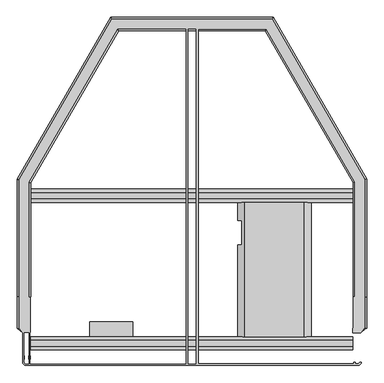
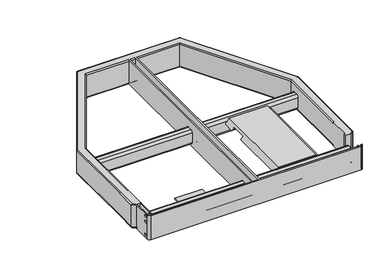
"""IFC4 building model written with IfcOpenShell, lengths in millimetres: proxy geometry, d&b J-Series Flying Frame : J Flying Frame."""

from ifc_helpers import new_model, si_unit, point, frame, origin, place, context, project, spatial, polyline, circle_curve, ellipse_curve, trimmed, outline, extrude, faceted_brep, source, transform, mapped, element, save
from ifc_brep_helpers import plane_surface, cylinder_surface, revolved_surface, extruded_surface, spline_surface, advanced_brep


def communication_devices_da0df73a(model_context):
    return source(origin(), model_context, "Body", "SolidModel", [
        advanced_brep(
        [(529.8213474, 112.6590104, 5.0), (529.8213474, 112.6590104, 115.0), (524.8213474, 112.6590104, 120.0), (523.1214393, 112.6590104, 120.0), (528.1214393, 112.6590104, 115.0), (528.1214393, 112.6590104, 5.0), (523.1214393, 112.6590104, 0.0), (524.8213474, 112.6590104, 0.0), (-493.1205849, 207.3217101, 120.0), (-488.1205849, 207.3217101, 120.0), (-488.1205849, 207.3217101, 115.0), (-488.1205849, 207.3217101, 5.0), (-488.1205849, 207.3217101, 0.0), (-493.1205849, 207.3217101, 0.0), (494.820493, 207.3217101, 0.0), (489.820493, 207.3217101, 0.0), (489.820493, 207.3217101, 5.0), (489.820493, 207.3217101, 115.0), (489.820493, 207.3217101, 120.0), (494.820493, 207.3217101, 120.0), (-528.1214393, 112.6590104, 5.0), (-528.1214393, 207.3217101, 5.0), (-523.1214393, 207.3217101, 0.0), (-523.1214393, 112.6590104, 0.0), (-523.1214393, 563.9047494, 0.0), (-241.8968652, 1051.0, 0.0), (243.5967733, 1051.0, 0.0), (524.8213474, 563.9047494, 0.0), (524.8213474, 207.3217101, 0.0), (507.150046, 99.7101996, 0.0), (488.1205849, 99.7101996, 0.0), (488.1205849, 112.6590104, 0.0), (489.820493, 112.6590104, 0.0), (494.820493, 555.8660447, 0.0), (226.275772, 1020.9991456, 0.0), (19.849954, 1020.9991456, 0.0), (19.849954, 5.0, 0.0), (490.8213474, 5.0, 0.0), (490.8213474, 10.0, 0.0), (495.8213474, 10.0, 0.0), (495.8213474, 5.0, 0.0), (503.849954, 5.0, 0.0), (508.849954, 10.0, 0.0), (513.849954, 10.0, 0.0), (503.849954, 0.0, 0.0), (-502.150046, 0.0, 0.0), (-512.150046, 10.0, 0.0), (-512.150046, 99.7101996, 0.0), (-507.150046, 99.7101996, 0.0), (-507.150046, 10.0, 0.0), (-502.150046, 5.0, 0.0), (-494.1214393, 5.0, 0.0), (-494.1214393, 99.7101996, 0.0), (-224.5758639, 1020.9991456, 0.0), (-493.1205849, 555.8660447, 0.0), (-488.1205849, 99.7101996, 0.0), (-489.1214393, 99.7101996, 0.0), (-489.1214393, 5.0, 0.0), (-18.150046, 5.0, 0.0), (-18.150046, 1021.0, 0.0), (-10.150046, 1021.0, 0.0), (-10.150046, 5.0, 0.0), (11.849954, 5.0, 0.0), (11.849954, 1021.0, 0.0), (-488.1205849, 554.5262988, 5.0), (-488.1205849, 554.5262988, 115.0), (-488.1205849, 99.7101996, 120.0), (-488.1205849, 494.9999998, 70.0), (-488.1205849, 504.9999998, 80.0), (-488.1205849, 524.9974162, 80.0), (-488.1205849, 534.9999998, 69.9974165), (-488.1205849, 534.9999998, 20.0), (-488.1205849, 524.9999998, 10.0), (-488.1205849, 504.9999998, 10.0), (-488.1205849, 494.9999998, 20.0), (-523.1214393, 207.3217101, 120.0), (-523.1214393, 112.6590104, 120.0), (-512.150046, 99.7101996, 120.0), (-512.150046, 10.0, 120.0), (-502.150046, 0.0, 120.0), (503.849954, 0.0, 120.0), (513.849954, 10.0, 120.0), (508.849954, 10.0, 120.0), (503.849954, 5.0, 120.0), (495.8213474, 5.0, 120.0), (495.8213474, 10.0, 120.0), (490.8213474, 10.0, 120.0), (490.8213474, 5.0, 120.0), (19.849954, 5.0, 120.0), (19.849954, 1021.0, 120.0), (226.275772, 1020.9991456, 120.0), (494.820493, 555.8660447, 120.0), (489.820493, 112.6590104, 120.0), (488.1205849, 112.6590104, 120.0), (488.1205849, 99.7101996, 120.0), (512.150046, 99.7101996, 120.0), (524.8213474, 207.3217101, 120.0), (524.8213474, 563.9047494, 120.0), (243.5967733, 1051.0, 120.0), (-241.8968652, 1051.0, 120.0), (-523.1214393, 563.9047494, 120.0), (-493.1205849, 555.8660447, 120.0), (-224.5758639, 1020.9991456, 120.0), (-18.150046, 1020.9991456, 120.0), (-18.150046, 5.0, 120.0), (-489.1214393, 5.0, 120.0), (-489.1214393, 99.7101996, 120.0), (-507.150046, 10.0, 120.0), (-507.150046, 99.7101996, 120.0), (-494.1214393, 99.7101996, 120.0), (-494.1214393, 5.0, 120.0), (-502.150046, 5.0, 120.0), (11.849954, 1021.0, 120.0), (11.849954, 5.0, 120.0), (-10.150046, 5.0, 120.0), (-10.150046, 1021.0, 120.0), (-528.1214393, 207.3217101, 115.0), (-528.1214393, 112.6590104, 115.0), (-528.1214393, 565.2444954, 115.0), (-528.1214393, 565.2444954, 5.0), (-10.150046, 1015.9991456, 115.0), (11.849954, 1015.9991456, 115.0), (223.3890206, 1015.9991456, 115.0), (19.849954, 1015.9991456, 115.0), (-221.6891126, 1015.9991456, 115.0), (-18.150046, 1015.9991456, 115.0), (-10.150046, 1015.9991456, 5.0), (11.849954, 1015.9991456, 5.0), (223.3890206, 1015.9991456, 5.0), (19.849954, 1015.9991456, 5.0), (-221.6891126, 1015.9991456, 5.0), (-18.150046, 1015.9991456, 5.0), (246.4835247, 1056.0, 5.0), (-244.7836166, 1056.0, 5.0), (-244.7836166, 1056.0, 115.0), (246.4835247, 1056.0, 115.0), (-512.150046, 99.7101996, 5.0), (512.150046, 99.7101996, 5.0), (-507.150046, 29.75, 108.0), (-507.150046, 19.25, 108.0), (-507.150046, 29.75, 79.65), (-507.150046, 19.25, 79.65), (-507.150046, 29.75, 14.0), (-507.150046, 19.25, 14.0), (-512.150046, 29.75, 108.0), (-512.150046, 19.25, 108.0), (-512.150046, 29.75, 79.65), (-512.150046, 19.25, 79.65), (-512.150046, 29.75, 14.0), (-512.150046, 19.25, 14.0), (-489.1214393, 29.75, 108.0), (-489.1214393, 19.25, 108.0), (-489.1214393, 29.75, 79.65), (-489.1214393, 19.25, 79.65), (-489.1214393, 29.75, 14.0), (-489.1214393, 19.25, 14.0), (-494.1214393, 29.75, 108.0), (-494.1214393, 19.25, 108.0), (-494.1214393, 29.75, 79.65), (-494.1214393, 19.25, 79.65), (-494.1214393, 29.75, 14.0), (-494.1214393, 19.25, 14.0), (489.820493, 554.5262988, 115.0), (489.820493, 554.5262988, 5.0), (529.8213474, 565.2444954, 5.0), (529.8213474, 207.3217101, 5.0), (529.8213474, 207.3217101, 115.0), (529.8213474, 565.2444954, 115.0), (19.849954, 494.9999998, 70.0), (19.849954, 504.9999998, 80.0), (19.849954, 524.9974162, 80.0), (19.849954, 534.9999998, 69.9974165), (19.849954, 534.9999998, 20.0), (19.849954, 524.9999998, 10.0), (19.849954, 504.9999998, 10.0), (19.849954, 494.9999998, 20.0), (19.849954, 47.0, 70.0), (19.849954, 57.0, 80.0), (19.849954, 76.9974165, 80.0), (19.849954, 87.0, 69.9974165), (19.849954, 87.0, 20.0), (19.849954, 77.0, 10.0), (19.849954, 57.0, 10.0), (19.849954, 47.0, 20.0), (11.849954, 504.9999998, 80.0), (11.849954, 494.9999998, 70.0), (11.849954, 494.9999998, 20.0), (11.849954, 504.9999998, 10.0), (11.849954, 524.9999998, 10.0), (11.849954, 534.9999998, 20.0), (11.849954, 534.9999998, 69.9974165), (11.849954, 524.9974162, 80.0), (11.849954, 57.0, 80.0), (11.849954, 47.0, 70.0), (11.849954, 47.0, 20.0), (11.849954, 57.0, 10.0), (11.849954, 77.0, 10.0), (11.849954, 87.0, 20.0), (11.849954, 87.0, 69.9974165), (11.849954, 76.9974165, 80.0), (-10.150046, 494.9999998, 70.0), (-10.150046, 504.9999998, 80.0), (-10.150046, 524.9974162, 80.0), (-10.150046, 534.9999998, 69.9974165), (-10.150046, 534.9999998, 20.0), (-10.150046, 524.9999998, 10.0), (-10.150046, 504.9999998, 10.0), (-10.150046, 494.9999998, 20.0), (-10.150046, 47.0, 70.0), (-10.150046, 57.0, 80.0), (-10.150046, 76.9974165, 80.0), (-10.150046, 87.0, 69.9974165), (-10.150046, 87.0, 20.0), (-10.150046, 77.0, 10.0), (-10.150046, 57.0, 10.0), (-10.150046, 47.0, 20.0), (-18.150046, 504.9999998, 80.0), (-18.150046, 494.9999998, 70.0), (-18.150046, 494.9999998, 20.0), (-18.150046, 504.9999998, 10.0), (-18.150046, 524.9999998, 10.0), (-18.150046, 534.9999998, 20.0), (-18.150046, 534.9999998, 69.9974165), (-18.150046, 524.9974162, 80.0), (-18.150046, 57.0, 80.0), (-18.150046, 47.0, 70.0), (-18.150046, 47.0, 20.0), (-18.150046, 57.0, 10.0), (-18.150046, 77.0, 10.0), (-18.150046, 87.0, 20.0), (-18.150046, 87.0, 69.9974165), (-18.150046, 76.9974165, 80.0), (488.1205849, 504.9999998, 80.0), (488.1205849, 494.9999998, 70.0), (488.1205849, 494.9999998, 20.0), (488.1205849, 504.9999998, 10.0), (488.1205849, 524.9999998, 10.0), (488.1205849, 534.9999998, 20.0), (488.1205849, 534.9999998, 69.9974165), (488.1205849, 524.9974162, 80.0), (488.1205849, 57.0, 80.0), (488.1205849, 47.0, 70.0), (488.1205849, 47.0, 20.0), (488.1205849, 57.0, 10.0), (488.1205849, 77.0, 10.0), (488.1205849, 87.0, 20.0), (488.1205849, 87.0, 69.9974165), (488.1205849, 76.9974165, 80.0), (-488.1205849, 57.0, 80.0), (-488.1205849, 76.9974165, 80.0), (-488.1205849, 87.0, 69.9974165), (-488.1205849, 87.0, 20.0), (-488.1205849, 77.0, 10.0), (-488.1205849, 57.0, 10.0), (-488.1205849, 47.0, 20.0), (-488.1205849, 47.0, 70.0)],
        [
            (0, 1),
            (1, 2, circle_curve(frame((524.8213474, 112.6590104, 115.0), z_axis=(0.0, -1.0, 0.0), x_axis=(-1.0, 0.0, 0.0)), 5.0)),
            (2, 3),
            (3, 4, circle_curve(frame((523.1214393, 112.6590104, 115.0), z_axis=(0.0, 1.0, 0.0), x_axis=(-1.0, 0.0, 0.0)), 5.0)),
            (4, 5),
            (5, 6, circle_curve(frame((523.1214393, 112.6590104, 5.0), z_axis=(0.0, 1.0, 0.0), x_axis=(-1.0, 0.0, 0.0)), 5.0)),
            (6, 7),
            (7, 0, circle_curve(frame((524.8213474, 112.6590104, 5.0), z_axis=(0.0, -1.0, 0.0), x_axis=(-1.0, 0.0, 0.0)), 5.0)),
            (8, 9),
            (9, 10),
            (10, 8, circle_curve(frame((-493.1205849, 207.3217101, 115.0), z_axis=(0.0, -1.0, 0.0), x_axis=(1.0, 0.0, 0.0)), 5.0)),
            (11, 12),
            (12, 13),
            (13, 11, circle_curve(frame((-493.1205849, 207.3217101, 5.0), z_axis=(0.0, -1.0, 0.0), x_axis=(1.0, 0.0, 0.0)), 5.0)),
            (14, 15),
            (15, 16),
            (16, 14, circle_curve(frame((494.820493, 207.3217101, 5.0), z_axis=(0.0, -1.0, 0.0), x_axis=(-1.0, 0.0, 0.0)), 5.0)),
            (17, 18),
            (18, 19),
            (19, 17, circle_curve(frame((494.820493, 207.3217101, 115.0), z_axis=(0.0, -1.0, 0.0), x_axis=(-1.0, 0.0, 0.0)), 5.0)),
            (20, 21),
            (21, 22, circle_curve(frame((-523.1214393, 207.3217101, 5.0), z_axis=(0.0, -1.0, 0.0), x_axis=(1.0, 0.0, 0.0)), 5.0)),
            (22, 23),
            (23, 20, circle_curve(frame((-523.1214393, 112.6590104, 5.0), z_axis=(0.0, 1.0, 0.0), x_axis=(1.0, 0.0, 0.0)), 5.0)),
            (22, 24),
            (24, 25),
            (25, 26),
            (26, 27),
            (27, 28),
            (28, 7),
            (6, 29),
            (29, 30),
            (30, 31),
            (31, 32),
            (32, 15),
            (14, 33),
            (33, 34),
            (34, 35),
            (35, 36),
            (36, 37),
            (37, 38),
            (38, 39),
            (39, 40),
            (40, 41),
            (41, 42, circle_curve(frame((503.849954, 10.0, 0.0), z_axis=(0.0, 0.0, 1.0), x_axis=(-1.0, 0.0, 0.0)), 5.0)),
            (42, 43),
            (43, 44, circle_curve(frame((503.849954, 10.0, 0.0), z_axis=(0.0, 0.0, -1.0), x_axis=(-1.0, 0.0, 0.0)), 10.0)),
            (44, 45),
            (45, 46, circle_curve(frame((-502.150046, 10.0, 0.0), z_axis=(0.0, 0.0, -1.0), x_axis=(1.0, 0.0, 0.0)), 10.0)),
            (46, 47),
            (47, 48),
            (48, 49),
            (49, 50, circle_curve(frame((-502.150046, 10.0, 0.0), z_axis=(0.0, 0.0, 1.0), x_axis=(1.0, 0.0, 0.0)), 5.0)),
            (50, 51),
            (51, 52),
            (52, 48),
            (48, 23),
            (53, 54),
            (54, 13),
            (12, 55),
            (55, 56),
            (56, 57),
            (57, 58),
            (58, 59),
            (59, 53),
            (60, 61),
            (61, 62),
            (62, 63),
            (63, 60),
            (64, 65),
            (65, 10),
            (9, 66),
            (66, 55),
            (11, 64),
            (67, 68, circle_curve(frame((-488.1205849, 504.9999998, 70.0), z_axis=(-1.0, 0.0, 0.0), x_axis=(0.0, -1.0, 0.0)), 10.0)),
            (68, 69),
            (69, 70, circle_curve(frame((-488.1205849, 524.9974162, 69.9974165), z_axis=(-1.0, 0.0, 0.0), x_axis=(0.0, -1.0, 0.0)), 10.0025835)),
            (70, 71),
            (71, 72, circle_curve(frame((-488.1205849, 524.9999998, 20.0), z_axis=(-1.0, 0.0, 0.0), x_axis=(0.0, -1.0, 0.0)), 10.0)),
            (72, 73),
            (73, 74, circle_curve(frame((-488.1205849, 504.9999998, 20.0), z_axis=(-1.0, 0.0, 0.0), x_axis=(0.0, -1.0, 0.0)), 10.0)),
            (74, 67),
            (75, 76),
            (76, 77),
            (77, 78),
            (78, 79, circle_curve(frame((-502.150046, 10.0, 120.0), z_axis=(0.0, 0.0, 1.0), x_axis=(1.0, 0.0, 0.0)), 10.0)),
            (79, 80),
            (80, 81, circle_curve(frame((503.849954, 10.0, 120.0), z_axis=(0.0, 0.0, 1.0), x_axis=(-1.0, 0.0, 0.0)), 10.0)),
            (81, 82),
            (82, 83, circle_curve(frame((503.849954, 10.0, 120.0), z_axis=(0.0, 0.0, -1.0), x_axis=(-1.0, 0.0, 0.0)), 5.0)),
            (83, 84),
            (84, 85),
            (85, 86),
            (86, 87),
            (87, 88),
            (88, 89),
            (89, 90),
            (90, 91),
            (91, 19),
            (18, 92),
            (92, 93),
            (93, 94),
            (94, 95),
            (95, 3),
            (2, 96),
            (96, 97),
            (97, 98),
            (98, 99),
            (99, 100),
            (100, 75),
            (101, 102),
            (102, 103),
            (103, 104),
            (104, 105),
            (105, 106),
            (106, 66),
            (8, 101),
            (107, 108),
            (108, 109),
            (109, 110),
            (110, 111),
            (111, 107, circle_curve(frame((-502.150046, 10.0, 120.0), z_axis=(0.0, 0.0, -1.0), x_axis=(1.0, 0.0, 0.0)), 5.0)),
            (112, 113),
            (113, 114),
            (114, 115),
            (115, 112),
            (75, 116, circle_curve(frame((-523.1214393, 207.3217101, 115.0), z_axis=(0.0, -1.0, 0.0), x_axis=(1.0, 0.0, 0.0)), 5.0)),
            (116, 117),
            (117, 76, circle_curve(frame((-523.1214393, 112.6590104, 115.0), z_axis=(0.0, 1.0, 0.0), x_axis=(1.0, 0.0, 0.0)), 5.0)),
            (20, 117),
            (116, 118),
            (118, 119),
            (119, 21),
            (115, 120, circle_curve(frame((-10.150046, 1020.9991456, 115.0), z_axis=(1.0, 0.0, 0.0), x_axis=(0.0, -1.0, 0.0)), 5.0)),
            (120, 121),
            (121, 112, circle_curve(frame((11.849954, 1020.9991456, 115.0), z_axis=(-1.0, 0.0, 0.0), x_axis=(0.0, -1.0, 0.0)), 5.0)),
            (122, 90, ellipse_curve(frame((226.275772, 1020.9991456, 115.0), z_axis=(-0.8660254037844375, 0.5000000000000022, 0.0), x_axis=(0.5000000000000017, 0.8660254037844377, 0.0)), 5.7735027, 5.0)),
            (89, 123, circle_curve(frame((19.849954, 1020.9991456, 115.0), z_axis=(1.0, 0.0, 0.0), x_axis=(0.0, -1.0, 0.0)), 5.0)),
            (123, 122),
            (102, 124, ellipse_curve(frame((-224.5758639, 1020.9991456, 115.0), z_axis=(0.8660254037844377, 0.5000000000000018, 0.0), x_axis=(0.5000000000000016, -0.8660254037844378, 0.0)), 5.7735027, 5.0)),
            (124, 125),
            (125, 103, circle_curve(frame((-18.150046, 1020.9991456, 115.0), z_axis=(-1.0, 0.0, 0.0), x_axis=(0.0, -1.0, 0.0)), 5.0)),
            (120, 126),
            (126, 127),
            (127, 121),
            (128, 122),
            (123, 129),
            (129, 128),
            (124, 130),
            (130, 131),
            (131, 125),
            (63, 127, circle_curve(frame((11.849954, 1020.9991456, 5.0), z_axis=(-1.0, 0.0, 0.0), x_axis=(0.0, -1.0, 0.0)), 5.0)),
            (126, 60, circle_curve(frame((-10.150046, 1020.9991456, 5.0), z_axis=(1.0, 0.0, 0.0), x_axis=(0.0, -1.0, 0.0)), 5.0)),
            (34, 128, ellipse_curve(frame((226.275772, 1020.9991456, 5.0), z_axis=(-0.8660254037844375, 0.5000000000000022, 0.0), x_axis=(0.5000000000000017, 0.8660254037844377, 0.0)), 5.7735027, 5.0)),
            (129, 35, circle_curve(frame((19.849954, 1020.9991456, 5.0), z_axis=(1.0, 0.0, 0.0), x_axis=(0.0, -1.0, 0.0)), 5.0)),
            (130, 53, ellipse_curve(frame((-224.5758639, 1020.9991456, 5.0), z_axis=(0.8660254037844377, 0.5000000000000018, 0.0), x_axis=(0.5000000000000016, -0.8660254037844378, 0.0)), 5.7735027, 5.0)),
            (59, 131, circle_curve(frame((-18.150046, 1020.9991456, 5.0), z_axis=(-1.0, 0.0, 0.0), x_axis=(0.0, -1.0, 0.0)), 5.0)),
            (132, 26, ellipse_curve(frame((243.5967733, 1051.0, 5.0), z_axis=(-0.8660254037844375, 0.5000000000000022, 0.0), x_axis=(0.5000000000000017, 0.8660254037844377, 0.0)), 5.7735027, 5.0)),
            (25, 133, ellipse_curve(frame((-241.8968652, 1051.0, 5.0), z_axis=(0.8660254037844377, 0.5000000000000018, 0.0), x_axis=(0.5000000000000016, -0.8660254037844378, 0.0)), 5.7735027, 5.0)),
            (133, 132),
            (133, 134),
            (134, 135),
            (135, 132),
            (134, 99, ellipse_curve(frame((-241.8968652, 1051.0, 115.0), z_axis=(0.8660254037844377, 0.5000000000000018, 0.0), x_axis=(0.5000000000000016, -0.8660254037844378, 0.0)), 5.7735027, 5.0)),
            (98, 135, ellipse_curve(frame((243.5967733, 1051.0, 115.0), z_axis=(-0.8660254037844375, 0.5000000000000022, 0.0), x_axis=(0.5000000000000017, 0.8660254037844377, 0.0)), 5.7735027, 5.0)),
            (101, 65, ellipse_curve(frame((-493.1205849, 555.8660447, 115.0), z_axis=(0.2588190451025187, 0.9659258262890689, 0.0), x_axis=(0.9659258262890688, -0.2588190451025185, 0.0)), 5.1763809, 5.0)),
            (65, 124),
            (64, 130),
            (64, 54, ellipse_curve(frame((-493.1205849, 555.8660447, 5.0), z_axis=(0.2588190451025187, 0.9659258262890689, 0.0), x_axis=(0.9659258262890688, -0.2588190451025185, 0.0)), 5.1763809, 5.0)),
            (24, 119, ellipse_curve(frame((-523.1214393, 563.9047494, 5.0), z_axis=(0.2588190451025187, 0.9659258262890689, 0.0), x_axis=(0.9659258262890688, -0.2588190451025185, 0.0)), 5.1763809, 5.0)),
            (119, 133),
            (118, 134),
            (118, 100, ellipse_curve(frame((-523.1214393, 563.9047494, 115.0), z_axis=(0.2588190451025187, 0.9659258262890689, 0.0), x_axis=(0.9659258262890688, -0.2588190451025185, 0.0)), 5.1763809, 5.0)),
            (106, 56),
            (108, 48),
            (52, 109),
            (48, 136, circle_curve(frame((-507.150046, 99.7101996, 5.0), z_axis=(0.0, 1.0, 0.0), x_axis=(1.0, 0.0, 0.0)), 5.0)),
            (136, 20),
            (136, 77),
            (77, 117),
            (94, 30),
            (29, 137, circle_curve(frame((507.150046, 99.7101996, 5.0), z_axis=(0.0, -1.0, 0.0), x_axis=(-1.0, 0.0, 0.0)), 5.0)),
            (137, 95),
            (31, 93),
            (92, 32),
            (5, 137),
            (4, 95),
            (107, 49),
            (138, 139, circle_curve(frame((-507.150046, 24.5, 108.0), z_axis=(-1.0, 0.0, 0.0), x_axis=(0.0, -1.0, 0.0)), 5.25)),
            (139, 138, circle_curve(frame((-507.150046, 24.5, 108.0), z_axis=(-1.0, 0.0, 0.0), x_axis=(0.0, -1.0, 0.0)), 5.25)),
            (140, 141, circle_curve(frame((-507.150046, 24.5, 79.65), z_axis=(-1.0, 0.0, 0.0), x_axis=(0.0, -1.0, 0.0)), 5.25)),
            (141, 140, circle_curve(frame((-507.150046, 24.5, 79.65), z_axis=(-1.0, 0.0, 0.0), x_axis=(0.0, -1.0, 0.0)), 5.25)),
            (142, 143, circle_curve(frame((-507.150046, 24.5, 14.0), z_axis=(-1.0, 0.0, 0.0), x_axis=(0.0, -1.0, 0.0)), 5.25)),
            (143, 142, circle_curve(frame((-507.150046, 24.5, 14.0), z_axis=(-1.0, 0.0, 0.0), x_axis=(0.0, -1.0, 0.0)), 5.25)),
            (46, 78),
            (136, 47),
            (144, 145, circle_curve(frame((-512.150046, 24.5, 108.0), z_axis=(1.0, 0.0, 0.0), x_axis=(0.0, -1.0, 0.0)), 5.25)),
            (145, 144, circle_curve(frame((-512.150046, 24.5, 108.0), z_axis=(1.0, 0.0, 0.0), x_axis=(0.0, -1.0, 0.0)), 5.25)),
            (146, 147, circle_curve(frame((-512.150046, 24.5, 79.65), z_axis=(1.0, 0.0, 0.0), x_axis=(0.0, -1.0, 0.0)), 5.25)),
            (147, 146, circle_curve(frame((-512.150046, 24.5, 79.65), z_axis=(1.0, 0.0, 0.0), x_axis=(0.0, -1.0, 0.0)), 5.25)),
            (148, 149, circle_curve(frame((-512.150046, 24.5, 14.0), z_axis=(1.0, 0.0, 0.0), x_axis=(0.0, -1.0, 0.0)), 5.25)),
            (149, 148, circle_curve(frame((-512.150046, 24.5, 14.0), z_axis=(1.0, 0.0, 0.0), x_axis=(0.0, -1.0, 0.0)), 5.25)),
            (138, 144),
            (145, 139),
            (140, 146),
            (147, 141),
            (142, 148),
            (149, 143),
            (105, 57),
            (150, 151, circle_curve(frame((-489.1214393, 24.5, 108.0), z_axis=(-1.0, 0.0, 0.0), x_axis=(0.0, -1.0, 0.0)), 5.25)),
            (151, 150, circle_curve(frame((-489.1214393, 24.5, 108.0), z_axis=(-1.0, 0.0, 0.0), x_axis=(0.0, -1.0, 0.0)), 5.25)),
            (152, 153, circle_curve(frame((-489.1214393, 24.5, 79.65), z_axis=(-1.0, 0.0, 0.0), x_axis=(0.0, -1.0, 0.0)), 5.25)),
            (153, 152, circle_curve(frame((-489.1214393, 24.5, 79.65), z_axis=(-1.0, 0.0, 0.0), x_axis=(0.0, -1.0, 0.0)), 5.25)),
            (154, 155, circle_curve(frame((-489.1214393, 24.5, 14.0), z_axis=(-1.0, 0.0, 0.0), x_axis=(0.0, -1.0, 0.0)), 5.25)),
            (155, 154, circle_curve(frame((-489.1214393, 24.5, 14.0), z_axis=(-1.0, 0.0, 0.0), x_axis=(0.0, -1.0, 0.0)), 5.25)),
            (51, 110),
            (156, 157, circle_curve(frame((-494.1214393, 24.5, 108.0), z_axis=(1.0, 0.0, 0.0), x_axis=(0.0, -1.0, 0.0)), 5.25)),
            (157, 156, circle_curve(frame((-494.1214393, 24.5, 108.0), z_axis=(1.0, 0.0, 0.0), x_axis=(0.0, -1.0, 0.0)), 5.25)),
            (158, 159, circle_curve(frame((-494.1214393, 24.5, 79.65), z_axis=(1.0, 0.0, 0.0), x_axis=(0.0, -1.0, 0.0)), 5.25)),
            (159, 158, circle_curve(frame((-494.1214393, 24.5, 79.65), z_axis=(1.0, 0.0, 0.0), x_axis=(0.0, -1.0, 0.0)), 5.25)),
            (160, 161, circle_curve(frame((-494.1214393, 24.5, 14.0), z_axis=(1.0, 0.0, 0.0), x_axis=(0.0, -1.0, 0.0)), 5.25)),
            (161, 160, circle_curve(frame((-494.1214393, 24.5, 14.0), z_axis=(1.0, 0.0, 0.0), x_axis=(0.0, -1.0, 0.0)), 5.25)),
            (150, 156),
            (157, 151),
            (152, 158),
            (159, 153),
            (154, 160),
            (161, 155),
            (91, 162, ellipse_curve(frame((494.820493, 555.8660447, 115.0), z_axis=(0.2588190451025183, -0.965925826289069, 0.0), x_axis=(-0.965925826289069, -0.25881904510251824, 0.0)), 5.1763809, 5.0)),
            (162, 17),
            (16, 163),
            (163, 33, ellipse_curve(frame((494.820493, 555.8660447, 5.0), z_axis=(0.2588190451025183, -0.965925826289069, 0.0), x_axis=(-0.965925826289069, -0.25881904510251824, 0.0)), 5.1763809, 5.0)),
            (27, 164, ellipse_curve(frame((524.8213474, 563.9047494, 5.0), z_axis=(0.2588190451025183, -0.965925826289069, 0.0), x_axis=(-0.965925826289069, -0.25881904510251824, 0.0)), 5.1763809, 5.0)),
            (164, 165),
            (165, 28, circle_curve(frame((524.8213474, 207.3217101, 5.0), z_axis=(0.0, 1.0, 0.0), x_axis=(-1.0, 0.0, 0.0)), 5.0)),
            (166, 167),
            (167, 97, ellipse_curve(frame((524.8213474, 563.9047494, 115.0), z_axis=(0.2588190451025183, -0.965925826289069, 0.0), x_axis=(-0.965925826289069, -0.25881904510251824, 0.0)), 5.1763809, 5.0)),
            (96, 166, circle_curve(frame((524.8213474, 207.3217101, 115.0), z_axis=(0.0, 1.0, 0.0), x_axis=(-1.0, 0.0, 0.0)), 5.0)),
            (122, 162),
            (128, 163),
            (163, 162),
            (132, 164),
            (135, 167),
            (167, 164),
            (0, 165),
            (166, 1),
            (45, 79),
            (44, 80),
            (104, 58),
            (50, 111),
            (43, 81),
            (42, 82),
            (41, 83),
            (40, 84),
            (39, 85),
            (38, 86),
            (37, 87),
            (36, 88),
            (168, 169, circle_curve(frame((19.849954, 504.9999998, 70.0), z_axis=(-1.0, 0.0, 0.0), x_axis=(0.0, -1.0, 0.0)), 10.0)),
            (169, 170),
            (170, 171, circle_curve(frame((19.849954, 524.9974162, 69.9974165), z_axis=(-1.0, 0.0, 0.0), x_axis=(0.0, -1.0, 0.0)), 10.0025835)),
            (171, 172),
            (172, 173, circle_curve(frame((19.849954, 524.9999998, 20.0), z_axis=(-1.0, 0.0, 0.0), x_axis=(0.0, -1.0, 0.0)), 10.0)),
            (173, 174),
            (174, 175, circle_curve(frame((19.849954, 504.9999998, 20.0), z_axis=(-1.0, 0.0, 0.0), x_axis=(0.0, -1.0, 0.0)), 10.0)),
            (175, 168),
            (176, 177, circle_curve(frame((19.849954, 57.0, 70.0), z_axis=(-1.0, 0.0, 0.0), x_axis=(0.0, -1.0, 0.0)), 10.0)),
            (177, 178),
            (178, 179, circle_curve(frame((19.849954, 76.9974165, 69.9974165), z_axis=(-1.0, 0.0, 0.0), x_axis=(0.0, -1.0, 0.0)), 10.0025835)),
            (179, 180),
            (180, 181, circle_curve(frame((19.849954, 77.0, 20.0), z_axis=(-1.0, 0.0, 0.0), x_axis=(0.0, -1.0, 0.0)), 10.0)),
            (181, 182),
            (182, 183, circle_curve(frame((19.849954, 57.0, 20.0), z_axis=(-1.0, 0.0, 0.0), x_axis=(0.0, -1.0, 0.0)), 10.0)),
            (183, 176),
            (62, 113),
            (184, 185, circle_curve(frame((11.849954, 504.9999998, 70.0), z_axis=(1.0, 0.0, 0.0), x_axis=(0.0, -1.0, 0.0)), 10.0)),
            (185, 186),
            (186, 187, circle_curve(frame((11.849954, 504.9999998, 20.0), z_axis=(1.0, 0.0, 0.0), x_axis=(0.0, -1.0, 0.0)), 10.0)),
            (187, 188),
            (188, 189, circle_curve(frame((11.849954, 524.9999998, 20.0), z_axis=(1.0, 0.0, 0.0), x_axis=(0.0, -1.0, 0.0)), 10.0)),
            (189, 190),
            (190, 191, circle_curve(frame((11.849954, 524.9974162, 69.9974165), z_axis=(1.0, 0.0, 0.0), x_axis=(0.0, -1.0, 0.0)), 10.0025835)),
            (191, 184),
            (192, 193, circle_curve(frame((11.849954, 57.0, 70.0), z_axis=(1.0, 0.0, 0.0), x_axis=(0.0, -1.0, 0.0)), 10.0)),
            (193, 194),
            (194, 195, circle_curve(frame((11.849954, 57.0, 20.0), z_axis=(1.0, 0.0, 0.0), x_axis=(0.0, -1.0, 0.0)), 10.0)),
            (195, 196),
            (196, 197, circle_curve(frame((11.849954, 77.0, 20.0), z_axis=(1.0, 0.0, 0.0), x_axis=(0.0, -1.0, 0.0)), 10.0)),
            (197, 198),
            (198, 199, circle_curve(frame((11.849954, 76.9974165, 69.9974165), z_axis=(1.0, 0.0, 0.0), x_axis=(0.0, -1.0, 0.0)), 10.0025835)),
            (199, 192),
            (61, 114),
            (200, 201, circle_curve(frame((-10.150046, 504.9999998, 70.0), z_axis=(-1.0, 0.0, 0.0), x_axis=(0.0, -1.0, 0.0)), 10.0)),
            (201, 202),
            (202, 203, circle_curve(frame((-10.150046, 524.9974162, 69.9974165), z_axis=(-1.0, 0.0, 0.0), x_axis=(0.0, -1.0, 0.0)), 10.0025835)),
            (203, 204),
            (204, 205, circle_curve(frame((-10.150046, 524.9999998, 20.0), z_axis=(-1.0, 0.0, 0.0), x_axis=(0.0, -1.0, 0.0)), 10.0)),
            (205, 206),
            (206, 207, circle_curve(frame((-10.150046, 504.9999998, 20.0), z_axis=(-1.0, 0.0, 0.0), x_axis=(0.0, -1.0, 0.0)), 10.0)),
            (207, 200),
            (208, 209, circle_curve(frame((-10.150046, 57.0, 70.0), z_axis=(-1.0, 0.0, 0.0), x_axis=(0.0, -1.0, 0.0)), 10.0)),
            (209, 210),
            (210, 211, circle_curve(frame((-10.150046, 76.9974165, 69.9974165), z_axis=(-1.0, 0.0, 0.0), x_axis=(0.0, -1.0, 0.0)), 10.0025835)),
            (211, 212),
            (212, 213, circle_curve(frame((-10.150046, 77.0, 20.0), z_axis=(-1.0, 0.0, 0.0), x_axis=(0.0, -1.0, 0.0)), 10.0)),
            (213, 214),
            (214, 215, circle_curve(frame((-10.150046, 57.0, 20.0), z_axis=(-1.0, 0.0, 0.0), x_axis=(0.0, -1.0, 0.0)), 10.0)),
            (215, 208),
            (216, 217, circle_curve(frame((-18.150046, 504.9999998, 70.0), z_axis=(1.0, 0.0, 0.0), x_axis=(0.0, -1.0, 0.0)), 10.0)),
            (217, 218),
            (218, 219, circle_curve(frame((-18.150046, 504.9999998, 20.0), z_axis=(1.0, 0.0, 0.0), x_axis=(0.0, -1.0, 0.0)), 10.0)),
            (219, 220),
            (220, 221, circle_curve(frame((-18.150046, 524.9999998, 20.0), z_axis=(1.0, 0.0, 0.0), x_axis=(0.0, -1.0, 0.0)), 10.0)),
            (221, 222),
            (222, 223, circle_curve(frame((-18.150046, 524.9974162, 69.9974165), z_axis=(1.0, 0.0, 0.0), x_axis=(0.0, -1.0, 0.0)), 10.0025835)),
            (223, 216),
            (224, 225, circle_curve(frame((-18.150046, 57.0, 70.0), z_axis=(1.0, 0.0, 0.0), x_axis=(0.0, -1.0, 0.0)), 10.0)),
            (225, 226),
            (226, 227, circle_curve(frame((-18.150046, 57.0, 20.0), z_axis=(1.0, 0.0, 0.0), x_axis=(0.0, -1.0, 0.0)), 10.0)),
            (227, 228),
            (228, 229, circle_curve(frame((-18.150046, 77.0, 20.0), z_axis=(1.0, 0.0, 0.0), x_axis=(0.0, -1.0, 0.0)), 10.0)),
            (229, 230),
            (230, 231, circle_curve(frame((-18.150046, 76.9974165, 69.9974165), z_axis=(1.0, 0.0, 0.0), x_axis=(0.0, -1.0, 0.0)), 10.0025835)),
            (231, 224),
            (232, 233, circle_curve(frame((488.1205849, 504.9999998, 70.0), z_axis=(1.0, 0.0, 0.0), x_axis=(0.0, -1.0, 0.0)), 10.0)),
            (233, 234),
            (234, 235, circle_curve(frame((488.1205849, 504.9999998, 20.0), z_axis=(1.0, 0.0, 0.0), x_axis=(0.0, -1.0, 0.0)), 10.0)),
            (235, 236),
            (236, 237, circle_curve(frame((488.1205849, 524.9999998, 20.0), z_axis=(1.0, 0.0, 0.0), x_axis=(0.0, -1.0, 0.0)), 10.0)),
            (237, 238),
            (238, 239, circle_curve(frame((488.1205849, 524.9974162, 69.9974165), z_axis=(1.0, 0.0, 0.0), x_axis=(0.0, -1.0, 0.0)), 10.0025835)),
            (239, 232),
            (240, 241, circle_curve(frame((488.1205849, 57.0, 70.0), z_axis=(1.0, 0.0, 0.0), x_axis=(0.0, -1.0, 0.0)), 10.0)),
            (241, 242),
            (242, 243, circle_curve(frame((488.1205849, 57.0, 20.0), z_axis=(1.0, 0.0, 0.0), x_axis=(0.0, -1.0, 0.0)), 10.0)),
            (243, 244),
            (244, 245, circle_curve(frame((488.1205849, 77.0, 20.0), z_axis=(1.0, 0.0, 0.0), x_axis=(0.0, -1.0, 0.0)), 10.0)),
            (245, 246),
            (246, 247, circle_curve(frame((488.1205849, 76.9974165, 69.9974165), z_axis=(1.0, 0.0, 0.0), x_axis=(0.0, -1.0, 0.0)), 10.0025835)),
            (247, 240),
            (248, 249),
            (249, 250, circle_curve(frame((-488.1205849, 76.9974165, 69.9974165), z_axis=(-1.0, 0.0, 0.0), x_axis=(0.0, -1.0, 0.0)), 10.0025835)),
            (250, 251),
            (251, 252, circle_curve(frame((-488.1205849, 77.0, 20.0), z_axis=(-1.0, 0.0, 0.0), x_axis=(0.0, -1.0, 0.0)), 10.0)),
            (252, 253),
            (253, 254, circle_curve(frame((-488.1205849, 57.0, 20.0), z_axis=(-1.0, 0.0, 0.0), x_axis=(0.0, -1.0, 0.0)), 10.0)),
            (254, 255),
            (255, 248, circle_curve(frame((-488.1205849, 57.0, 70.0), z_axis=(-1.0, 0.0, 0.0), x_axis=(0.0, -1.0, 0.0)), 10.0)),
            (232, 169),
            (168, 233),
            (184, 201),
            (200, 185),
            (216, 68),
            (67, 217),
            (175, 234),
            (207, 186),
            (74, 218),
            (174, 235),
            (206, 187),
            (73, 219),
            (173, 236),
            (205, 188),
            (72, 220),
            (172, 237),
            (204, 189),
            (71, 221),
            (171, 238),
            (203, 190),
            (70, 222),
            (170, 239),
            (202, 191),
            (69, 223),
            (240, 177),
            (176, 241),
            (255, 225),
            (224, 248),
            (192, 209),
            (208, 193),
            (183, 242),
            (254, 226),
            (215, 194),
            (182, 243),
            (253, 227),
            (214, 195),
            (181, 244),
            (252, 228),
            (213, 196),
            (180, 245),
            (251, 229),
            (212, 197),
            (179, 246),
            (250, 230),
            (211, 198),
            (178, 247),
            (249, 231),
            (210, 199),
        ],
        [
            plane_surface(frame((-518.1214393, 112.6590104, 5.0), z_axis=(0.0, -1.0, 0.0), x_axis=(0.0, 0.0, 1.0))),
            plane_surface(frame((-518.1214393, 207.3217101, 5.0), z_axis=(0.0, 1.0, 0.0), x_axis=(0.0, 0.0, -1.0))),
            cylinder_surface(frame((-523.1214393, 207.3217101, 5.0), z_axis=(0.0, -1.0, 0.0), x_axis=(1.0, 0.0, 0.0)), 5.0),
            plane_surface(frame((-523.1214393, 112.6590104, 0.0), z_axis=(0.0, 0.0, -1.0), x_axis=(0.0, 1.0, 0.0))),
            plane_surface(frame((-488.1205849, 112.6590104, 0.0), z_axis=(1.0, 0.0, 0.0), x_axis=(0.0, 1.0, 0.0))),
            plane_surface(frame((-488.1205849, 112.6590104, 120.0), z_axis=(0.0, 0.0, 1.0), x_axis=(0.0, 1.0, 0.0))),
            cylinder_surface(frame((-523.1214393, 207.3217101, 115.0), z_axis=(0.0, -1.0, 0.0), x_axis=(1.0, 0.0, 0.0)), 5.0),
            plane_surface(frame((-528.1214393, 112.6590104, 115.0), z_axis=(-1.0, 0.0, 0.0), x_axis=(0.0, 1.0, 0.0))),
            cylinder_surface(frame((246.4835247, 1020.9991456, 115.0), z_axis=(1.0, 0.0, 0.0), x_axis=(0.0, -1.0, 0.0)), 5.0),
            plane_surface(frame((223.3890206, 1015.9991456, 115.0), z_axis=(0.0, -1.0, 0.0), x_axis=(-1.0, 0.0, 0.0))),
            cylinder_surface(frame((246.4835247, 1020.9991456, 5.0), z_axis=(1.0, 0.0, 0.0), x_axis=(0.0, -1.0, 0.0)), 5.0),
            cylinder_surface(frame((246.4835247, 1051.0, 5.0), z_axis=(1.0, 0.0, 0.0), x_axis=(0.0, -1.0, 0.0)), 5.0),
            plane_surface(frame((246.4835247, 1056.0, 5.0), z_axis=(0.0, 1.0, 0.0), x_axis=(-1.0, 0.0, 0.0))),
            cylinder_surface(frame((246.4835247, 1051.0, 115.0), z_axis=(1.0, 0.0, 0.0), x_axis=(0.0, -1.0, 0.0)), 5.0),
            cylinder_surface(frame((-214.4719876, 1038.4995728, 115.0), z_axis=(0.4999999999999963, 0.8660254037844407, 0.0), x_axis=(0.8660254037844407, -0.4999999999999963, 0.0)), 5.0),
            plane_surface(frame((-221.6891126, 1015.9991456, 115.0), z_axis=(0.8660254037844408, -0.4999999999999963, 0.0), x_axis=(-0.4999999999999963, -0.8660254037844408, 0.0))),
            cylinder_surface(frame((-214.4719876, 1038.4995728, 5.0), z_axis=(0.4999999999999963, 0.8660254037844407, 0.0), x_axis=(0.8660254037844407, -0.4999999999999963, 0.0)), 5.0),
            cylinder_surface(frame((-240.4534896, 1053.5, 5.0), z_axis=(0.4999999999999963, 0.8660254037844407, 0.0), x_axis=(0.8660254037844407, -0.4999999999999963, 0.0)), 5.0),
            plane_surface(frame((-244.7836166, 1056.0, 5.0), z_axis=(-0.8660254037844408, 0.4999999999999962, 0.0), x_axis=(-0.4999999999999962, -0.8660254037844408, 0.0))),
            cylinder_surface(frame((-240.4534896, 1053.5, 115.0), z_axis=(0.4999999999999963, 0.8660254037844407, 0.0), x_axis=(0.8660254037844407, -0.4999999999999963, 0.0)), 5.0),
            cylinder_surface(frame((-493.1205849, 565.2444954, 115.0), z_axis=(0.0, 1.0, 0.0), x_axis=(1.0, 0.0, 0.0)), 5.0),
            cylinder_surface(frame((-493.1205849, 565.2444954, 5.0), z_axis=(0.0, 1.0, 0.0), x_axis=(1.0, 0.0, 0.0)), 5.0),
            cylinder_surface(frame((-523.1214393, 565.2444954, 5.0), z_axis=(0.0, 1.0, 0.0), x_axis=(1.0, 0.0, 0.0)), 5.0),
            cylinder_surface(frame((-523.1214393, 565.2444954, 115.0), z_axis=(0.0, 1.0, 0.0), x_axis=(1.0, 0.0, 0.0)), 5.0),
            plane_surface(frame((-501.5382616, 99.7101996, 49.0), z_axis=(0.0, -1.0, 0.0), x_axis=(1.0, 0.0, 0.0))),
            extruded_surface(trimmed(circle_curve(frame((-523.1214393, 112.6590104, 5.0), z_axis=(0.0, -1.0, 0.0), x_axis=(1.0, 0.0, 0.0)), 5.0), [point((-528.1214393, 112.6590104, 5.0))], [point((-523.1214393, 112.6590104, 0.0))], True, "CARTESIAN"), (15.971393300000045, -12.948810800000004, 0.0), 20.561057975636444),
            plane_surface(frame((-528.1214393, 112.6590104, 60.0), z_axis=(-0.6297735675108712, -0.7767787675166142, 0.0), x_axis=(0.0, 0.0, -1.0))),
            spline_surface(2, 1, [[(-523.1214393, 112.6590104, 120.0), (-512.150046, 99.7101996, 120.0)], [(-528.1214393, 112.6590104, 120.0), (-512.150046, 99.7101996, 120.0)], [(-528.1214393, 112.6590104, 115.0), (-512.150046, 99.7101996, 120.0)]], [3, 3], [2, 2], [0.0, 1.0], [0.0, 1.0], weights=[[1.0, 1.0], [0.7071067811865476, 0.7071067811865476], [1.0, 1.0]]),
            plane_surface(frame((501.5382616, 99.7101996, 49.0), z_axis=(0.0, -1.0, 0.0), x_axis=(0.0, 0.0, -1.0))),
            plane_surface(frame((513.1211545, 112.6590104, 60.0), z_axis=(0.0, 1.0, 0.0), x_axis=(0.0, 0.0, -1.0))),
            plane_surface(frame((488.1205849, 112.6590104, 60.0), z_axis=(-1.0, 0.0, 0.0), x_axis=(0.0, 0.0, -1.0))),
            extruded_surface(trimmed(circle_curve(frame((523.1214393, 112.6590104, 5.0), z_axis=(0.0, -1.0, 0.0), x_axis=(-1.0, 0.0, 0.0)), 5.0), [point((523.1214393, 112.6590104, 0.0))], [point((528.1214393, 112.6590104, 5.0))], True, "CARTESIAN"), (-15.971393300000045, -12.948810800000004, 0.0), 20.561057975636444),
            plane_surface(frame((528.1214393, 112.6590104, 60.0), z_axis=(0.629773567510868, -0.7767787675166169, 0.0), x_axis=(0.0, 0.0, 1.0))),
            spline_surface(2, 1, [[(528.1214393, 112.6590104, 115.0), (512.150046, 99.7101996, 120.0)], [(528.1214393, 112.6590104, 120.0), (512.150046, 99.7101996, 120.0)], [(523.1214393, 112.6590104, 120.0), (512.150046, 99.7101996, 120.0)]], [3, 3], [2, 2], [0.0, 1.0], [0.0, 1.0], weights=[[1.0, 1.0], [0.7071067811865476, 0.7071067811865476], [1.0, 1.0]]),
            plane_surface(frame((-507.150046, 0.0, 120.0), z_axis=(1.0, 0.0, 0.0), x_axis=(0.0, -1.0, 0.0))),
            plane_surface(frame((-512.150046, 0.0, 120.0), z_axis=(-1.0, 0.0, 0.0), x_axis=(0.0, 1.0, 0.0))),
            plane_surface(frame((-507.150046, 99.7101996, 0.0), z_axis=(0.0, 1.0, 0.0), x_axis=(-1.0, 0.0, 0.0))),
            revolved_surface(polyline([(-512.150046, 19.25, 108.0), (-507.150046, 19.25, 108.0)]), (-512.150046, 24.5, 108.0), (-1.0, 0.0, 0.0)),
            revolved_surface(polyline([(-512.150046, 19.25, 79.65), (-507.150046, 19.25, 79.65)]), (-512.150046, 24.5, 79.65), (-1.0, 0.0, 0.0)),
            revolved_surface(polyline([(-512.150046, 19.25, 14.0), (-507.150046, 19.25, 14.0)]), (-512.150046, 24.5, 14.0), (-1.0, 0.0, 0.0)),
            plane_surface(frame((-489.1214393, 0.0, 120.0), z_axis=(1.0, 0.0, 0.0), x_axis=(0.0, -1.0, 0.0))),
            plane_surface(frame((-494.1214393, 0.0, 120.0), z_axis=(-1.0, 0.0, 0.0), x_axis=(0.0, 1.0, 0.0))),
            revolved_surface(polyline([(-494.1214393, 19.25, 108.0), (-489.1214393, 19.25, 108.0)]), (-494.1214393, 24.5, 108.0), (-1.0, 0.0, 0.0)),
            revolved_surface(polyline([(-494.1214393, 19.25, 79.65), (-489.1214393, 19.25, 79.65)]), (-494.1214393, 24.5, 79.65), (-1.0, 0.0, 0.0)),
            revolved_surface(polyline([(-494.1214393, 19.25, 14.0), (-489.1214393, 19.25, 14.0)]), (-494.1214393, 24.5, 14.0), (-1.0, 0.0, 0.0)),
            cylinder_surface(frame((494.820493, 207.3217101, 115.0), z_axis=(0.0, -1.0, 0.0), x_axis=(-1.0, 0.0, 0.0)), 5.0),
            cylinder_surface(frame((494.820493, 207.3217101, 5.0), z_axis=(0.0, -1.0, 0.0), x_axis=(-1.0, 0.0, 0.0)), 5.0),
            cylinder_surface(frame((524.8213474, 207.3217101, 5.0), z_axis=(0.0, -1.0, 0.0), x_axis=(-1.0, 0.0, 0.0)), 5.0),
            cylinder_surface(frame((524.8213474, 207.3217101, 115.0), z_axis=(0.0, -1.0, 0.0), x_axis=(-1.0, 0.0, 0.0)), 5.0),
            cylinder_surface(frame((499.5097183, 547.7440682, 115.0), z_axis=(0.4999999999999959, -0.866025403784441, 0.0), x_axis=(-0.866025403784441, -0.4999999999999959, 0.0)), 5.0),
            plane_surface(frame((489.820493, 554.5262988, 115.0), z_axis=(-0.8660254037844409, -0.49999999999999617, 0.0), x_axis=(-0.49999999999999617, 0.8660254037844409, 0.0))),
            cylinder_surface(frame((499.5097183, 547.7440682, 5.0), z_axis=(0.4999999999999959, -0.866025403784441, 0.0), x_axis=(-0.866025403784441, -0.4999999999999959, 0.0)), 5.0),
            cylinder_surface(frame((525.4912203, 562.7444954, 5.0), z_axis=(0.4999999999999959, -0.866025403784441, 0.0), x_axis=(-0.866025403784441, -0.4999999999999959, 0.0)), 5.0),
            plane_surface(frame((529.8213474, 565.2444954, 5.0), z_axis=(0.8660254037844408, 0.4999999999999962, 0.0), x_axis=(-0.4999999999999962, 0.8660254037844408, 0.0))),
            cylinder_surface(frame((525.4912203, 562.7444954, 115.0), z_axis=(0.4999999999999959, -0.866025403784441, 0.0), x_axis=(-0.866025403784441, -0.4999999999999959, 0.0)), 5.0),
            plane_surface(frame((529.8213474, 112.6590104, 5.0), z_axis=(1.0, 0.0, 0.0), x_axis=(0.0, 1.0, 0.0))),
            cylinder_surface(frame((524.8213474, 0.0, 115.0), z_axis=(0.0, -1.0, 0.0), x_axis=(-1.0, 0.0, 0.0)), 5.0),
            plane_surface(frame((489.820493, 112.6590104, 120.0), z_axis=(-1.0, 0.0, 0.0), x_axis=(0.0, 1.0, 0.0))),
            cylinder_surface(frame((524.8213474, 0.0, 5.0), z_axis=(0.0, -1.0, 0.0), x_axis=(-1.0, 0.0, 0.0)), 5.0),
            cylinder_surface(frame((-502.150046, 10.0, 0.0), z_axis=(0.0, 0.0, 1.0), x_axis=(1.0, 0.0, 0.0)), 10.0),
            plane_surface(frame((-502.150046, 0.0, 120.0), z_axis=(0.0, -1.0, 0.0), x_axis=(0.0, 0.0, -1.0))),
            plane_surface(frame((-18.150046, 5.0, 120.0), z_axis=(0.0, 1.0, 0.0), x_axis=(0.0, 0.0, -1.0))),
            plane_surface(frame((-494.1214393, 5.0, 120.0), z_axis=(0.0, 1.0, 0.0), x_axis=(0.0, 0.0, -1.0))),
            revolved_surface(polyline([(-497.150046, 10.0, 0.0), (-497.150046, 10.0, 120.0)]), (-502.150046, 10.0, 0.0), (0.0, 0.0, -1.0)),
            cylinder_surface(frame((503.849954, 10.0, 0.0), z_axis=(0.0, 0.0, 1.0), x_axis=(-1.0, 0.0, 0.0)), 10.0),
            plane_surface(frame((513.849954, 10.0, 120.0), z_axis=(0.0, 1.0, 0.0), x_axis=(0.0, 0.0, -1.0))),
            revolved_surface(polyline([(498.849954, 10.0, 0.0), (498.849954, 10.0, 120.0)]), (503.849954, 10.0, 0.0), (0.0, 0.0, -1.0)),
            plane_surface(frame((503.849954, 5.0, 120.0), z_axis=(0.0, 1.0, 0.0), x_axis=(0.0, 0.0, -1.0))),
            plane_surface(frame((495.8213474, 5.0, 120.0), z_axis=(1.0, 0.0, 0.0), x_axis=(0.0, 0.0, -1.0))),
            plane_surface(frame((495.8213474, 10.0, 120.0), z_axis=(0.0, 1.0, 0.0), x_axis=(0.0, 0.0, -1.0))),
            plane_surface(frame((490.8213474, 10.0, 120.0), z_axis=(-1.0, 0.0, 0.0), x_axis=(0.0, 0.0, -1.0))),
            plane_surface(frame((490.8213474, 5.0, 120.0), z_axis=(0.0, 1.0, 0.0), x_axis=(0.0, 0.0, -1.0))),
            plane_surface(frame((19.849954, 5.0, 120.0), z_axis=(1.0, 0.0, 0.0), x_axis=(0.0, 0.0, -1.0))),
            plane_surface(frame((11.849954, 1021.0, 120.0), z_axis=(-1.0, 0.0, 0.0), x_axis=(0.0, 0.0, -1.0))),
            plane_surface(frame((11.849954, 5.0, 120.0), z_axis=(0.0, 1.0, 0.0), x_axis=(0.0, 0.0, -1.0))),
            plane_surface(frame((-10.150046, 5.0, 120.0), z_axis=(1.0, 0.0, 0.0), x_axis=(0.0, 0.0, -1.0))),
            plane_surface(frame((-18.150046, 1021.0, 120.0), z_axis=(-1.0, 0.0, 0.0), x_axis=(0.0, 0.0, -1.0))),
            plane_surface(frame((488.1205849, 494.9999998, 70.0), z_axis=(1.0, 0.0, 0.0), x_axis=(0.0, 0.0, -1.0))),
            plane_surface(frame((-488.1205849, 494.9999998, 70.0), z_axis=(-1.0, 0.0, 0.0), x_axis=(0.0, 0.0, 1.0))),
            cylinder_surface(frame((-488.1205849, 504.9999998, 70.0), z_axis=(1.0, 0.0, 0.0), x_axis=(0.0, -1.0, 0.0)), 10.0),
            plane_surface(frame((488.1205849, 494.9999998, 70.0), z_axis=(0.0, -1.0, 0.0), x_axis=(-1.0, 0.0, 0.0))),
            cylinder_surface(frame((-488.1205849, 504.9999998, 20.0), z_axis=(1.0, 0.0, 0.0), x_axis=(0.0, -1.0, 0.0)), 10.0),
            plane_surface(frame((488.1205849, 504.9999998, 10.0), z_axis=(0.0, 0.0, -1.0), x_axis=(-1.0, 0.0, 0.0))),
            cylinder_surface(frame((-488.1205849, 524.9999998, 20.0), z_axis=(1.0, 0.0, 0.0), x_axis=(0.0, -1.0, 0.0)), 10.0),
            plane_surface(frame((488.1205849, 534.9999998, 20.0), z_axis=(0.0, 1.0, 0.0), x_axis=(-1.0, 0.0, 0.0))),
            cylinder_surface(frame((-488.1205849, 524.9974162, 69.9974165), z_axis=(1.0, 0.0, 0.0), x_axis=(0.0, -1.0, 0.0)), 10.0025835),
            plane_surface(frame((488.1205849, 524.9974162, 80.0), z_axis=(0.0, 0.0, 1.0), x_axis=(-1.0, 0.0, 0.0))),
            cylinder_surface(frame((0.849954, 57.0, 70.0), z_axis=(1.0, 0.0, 0.0), x_axis=(0.0, -1.0, 0.0)), 10.0),
            plane_surface(frame((488.1205849, 47.0, 70.0), z_axis=(0.0, -1.0, 0.0), x_axis=(-1.0, 0.0, 0.0))),
            cylinder_surface(frame((0.849954, 57.0, 20.0), z_axis=(1.0, 0.0, 0.0), x_axis=(0.0, -1.0, 0.0)), 10.0),
            plane_surface(frame((488.1205849, 57.0, 10.0), z_axis=(0.0, 0.0, -1.0), x_axis=(-1.0, 0.0, 0.0))),
            cylinder_surface(frame((0.849954, 77.0, 20.0), z_axis=(1.0, 0.0, 0.0), x_axis=(0.0, -1.0, 0.0)), 10.0),
            plane_surface(frame((488.1205849, 87.0, 20.0), z_axis=(0.0, 1.0, 0.0), x_axis=(-1.0, 0.0, 0.0))),
            cylinder_surface(frame((0.849954, 76.9974165, 69.9974165), z_axis=(1.0, 0.0, 0.0), x_axis=(0.0, -1.0, 0.0)), 10.0025835),
            plane_surface(frame((488.1205849, 76.9974165, 80.0), z_axis=(0.0, 0.0, 1.0), x_axis=(-1.0, 0.0, 0.0))),
        ],
        [
            (0, [[1, 2, 3, 4, 5, 6, 7, 8]]),
            (1, [[9, 10, 11]]),
            (1, [[12, 13, 14]]),
            (1, [[15, 16, 17]]),
            (1, [[18, 19, 20]]),
            (2, [[21, 22, 23, 24]]),
            (3, [[-23, 25, 26, 27, 28, 29, 30, -7, 31, 32, 33, 34, 35, -15, 36, 37, 38, 39, 40, 41, 42, 43, 44, 45, 46, 47, 48, 49, 50, 51, 52, 53, 54, 55, 56, 57], [58, 59, -13, 60, 61, 62, 63, 64, 65], [66, 67, 68, 69]]),
            (4, [[70, 71, -10, 72, 73, -60, -12, 74], [75, 76, 77, 78, 79, 80, 81, 82]]),
            (5, [[83, 84, 85, 86, 87, 88, 89, 90, 91, 92, 93, 94, 95, 96, 97, 98, 99, -19, 100, 101, 102, 103, 104, -3, 105, 106, 107, 108, 109, 110], [111, 112, 113, 114, 115, 116, -72, -9, 117], [118, 119, 120, 121, 122], [123, 124, 125, 126]]),
            (6, [[-83, 127, 128, 129]]),
            (7, [[-21, 130, -128, 131, 132, 133]]),
            (8, [[-126, 134, 135, 136]]),
            (8, [[137, -97, 138, 139]]),
            (8, [[140, 141, 142, -112]]),
            (9, [[-135, 143, 144, 145]]),
            (9, [[146, -139, 147, 148]]),
            (9, [[149, 150, 151, -141]]),
            (10, [[-69, 152, -144, 153]]),
            (10, [[154, -148, 155, -38]]),
            (10, [[156, -65, 157, -150]]),
            (11, [[158, -27, 159, 160]]),
            (12, [[-160, 161, 162, 163]]),
            (13, [[-162, 164, -108, 165]]),
            (14, [[-140, -111, 166, 167]]),
            (15, [[-149, -167, -70, 168]]),
            (16, [[-156, -168, 169, -58]]),
            (17, [[-159, -26, 170, 171]]),
            (18, [[-161, -171, -132, 172]]),
            (19, [[-164, -172, 173, -109]]),
            (20, [[-166, -117, -11, -71]]),
            (21, [[-169, -74, -14, -59]]),
            (22, [[-170, -25, -22, -133]]),
            (23, [[-173, -131, -127, -110]]),
            (24, [[-73, -116, 174, -61]]),
            (24, [[175, -56, 176, -119]]),
            (25, [[-57, 177, 178, -24]]),
            (26, [[-178, 179, 180, -130]]),
            (27, [[-84, -129, -180]]),
            (28, [[-103, 181, -32, 182, 183]]),
            (29, [[184, -101, 185, -34]]),
            (30, [[-181, -102, -184, -33]]),
            (31, [[-182, -31, -6, 186]]),
            (32, [[-183, -186, -5, 187]]),
            (33, [[-104, -187, -4]]),
            (34, [[-118, 188, -52, -175], [189, 190], [191, 192], [193, 194]]),
            (35, [[-50, 195, -85, -179, 196], [197, 198], [199, 200], [201, 202]]),
            (36, [[-51, -196, -177]]),
            (37, [[-189, 203, -198, 204]]),
            (37, [[-190, -204, -197, -203]]),
            (38, [[-191, 205, -200, 206]]),
            (38, [[-192, -206, -199, -205]]),
            (39, [[-193, 207, -202, 208]]),
            (39, [[-194, -208, -201, -207]]),
            (40, [[-174, -115, 209, -62], [210, 211], [212, 213], [214, 215]]),
            (41, [[-176, -55, 216, -120], [217, 218], [219, 220], [221, 222]]),
            (42, [[-210, 223, -218, 224]]),
            (42, [[-211, -224, -217, -223]]),
            (43, [[-212, 225, -220, 226]]),
            (43, [[-213, -226, -219, -225]]),
            (44, [[-214, 227, -222, 228]]),
            (44, [[-215, -228, -221, -227]]),
            (45, [[-99, 229, 230, -20]]),
            (46, [[231, 232, -36, -17]]),
            (47, [[-29, 233, 234, 235]]),
            (48, [[236, 237, -106, 238]]),
            (49, [[-137, 239, -229, -98]]),
            (50, [[-146, 240, 241, -239]]),
            (51, [[-154, -37, -232, -240]]),
            (52, [[-158, 242, -233, -28]]),
            (53, [[-163, 243, 244, -242]]),
            (54, [[-165, -107, -237, -243]]),
            (55, [[-1, 245, -234, -244, -236, 246]]),
            (56, [[-2, -246, -238, -105]]),
            (57, [[-100, -18, -230, -241, -231, -16, -35, -185]]),
            (58, [[-8, -30, -235, -245]]),
            (59, [[-86, -195, -49, 247]]),
            (60, [[-87, -247, -48, 248]]),
            (61, [[-114, 249, -63, -209]]),
            (62, [[-121, -216, -54, 250]]),
            (63, [[-122, -250, -53, -188]]),
            (64, [[-88, -248, -47, 251]]),
            (65, [[-89, -251, -46, 252]]),
            (66, [[-90, -252, -45, 253]]),
            (67, [[-91, -253, -44, 254]]),
            (68, [[-92, -254, -43, 255]]),
            (69, [[-93, -255, -42, 256]]),
            (70, [[-94, -256, -41, 257]]),
            (71, [[-95, -257, -40, 258]]),
            (72, [[-96, -258, -39, -155, -147, -138], [259, 260, 261, 262, 263, 264, 265, 266], [267, 268, 269, 270, 271, 272, 273, 274]]),
            (73, [[-123, -136, -145, -152, -68, 275], [276, 277, 278, 279, 280, 281, 282, 283], [284, 285, 286, 287, 288, 289, 290, 291]]),
            (74, [[-124, -275, -67, 292]]),
            (75, [[-125, -292, -66, -153, -143, -134], [293, 294, 295, 296, 297, 298, 299, 300], [301, 302, 303, 304, 305, 306, 307, 308]]),
            (76, [[-113, -142, -151, -157, -64, -249], [309, 310, 311, 312, 313, 314, 315, 316], [317, 318, 319, 320, 321, 322, 323, 324]]),
            (77, [[325, 326, 327, 328, 329, 330, 331, 332]]),
            (77, [[333, 334, 335, 336, 337, 338, 339, 340]]),
            (78, [[341, 342, 343, 344, 345, 346, 347, 348]]),
            (79, [[-325, 349, -259, 350]]),
            (79, [[351, -293, 352, -276]]),
            (79, [[353, -75, 354, -309]]),
            (80, [[-326, -350, -266, 355]]),
            (80, [[-352, -300, 356, -277]]),
            (80, [[-354, -82, 357, -310]]),
            (81, [[-327, -355, -265, 358]]),
            (81, [[-356, -299, 359, -278]]),
            (81, [[-357, -81, 360, -311]]),
            (82, [[-328, -358, -264, 361]]),
            (82, [[-359, -298, 362, -279]]),
            (82, [[-360, -80, 363, -312]]),
            (83, [[-329, -361, -263, 364]]),
            (83, [[-362, -297, 365, -280]]),
            (83, [[-363, -79, 366, -313]]),
            (84, [[-330, -364, -262, 367]]),
            (84, [[-365, -296, 368, -281]]),
            (84, [[-366, -78, 369, -314]]),
            (85, [[-331, -367, -261, 370]]),
            (85, [[-368, -295, 371, -282]]),
            (85, [[-369, -77, 372, -315]]),
            (86, [[-332, -370, -260, -349]]),
            (86, [[-351, -283, -371, -294]]),
            (86, [[-353, -316, -372, -76]]),
            (87, [[-333, 373, -267, 374]]),
            (87, [[-348, 375, -317, 376]]),
            (87, [[377, -301, 378, -284]]),
            (88, [[-334, -374, -274, 379]]),
            (88, [[-347, 380, -318, -375]]),
            (88, [[-378, -308, 381, -285]]),
            (89, [[-335, -379, -273, 382]]),
            (89, [[-346, 383, -319, -380]]),
            (89, [[-381, -307, 384, -286]]),
            (90, [[-336, -382, -272, 385]]),
            (90, [[-345, 386, -320, -383]]),
            (90, [[-384, -306, 387, -287]]),
            (91, [[-337, -385, -271, 388]]),
            (91, [[-344, 389, -321, -386]]),
            (91, [[-387, -305, 390, -288]]),
            (92, [[-338, -388, -270, 391]]),
            (92, [[-343, 392, -322, -389]]),
            (92, [[-390, -304, 393, -289]]),
            (93, [[-339, -391, -269, 394]]),
            (93, [[-342, 395, -323, -392]]),
            (93, [[-393, -303, 396, -290]]),
            (94, [[-340, -394, -268, -373]]),
            (94, [[-341, -376, -324, -395]]),
            (94, [[-377, -291, -396, -302]]),
        ],
    ),
        faceted_brep([(161.6783812, 494.9999998, 78.0), (340.0215269, 494.9999998, 78.0), (340.0215269, 87.0, 78.0), (161.6783812, 87.0, 78.0), (360.6489439, 494.9999998, 57.372583), (360.6489439, 344.8, 57.372583), (360.6489439, 87.0, 57.372583), (362.6489439, 494.9999998, 58.2010101), (340.849954, 494.9999998, 80.0), (340.849954, 87.0, 80.0), (362.0631575, 87.0, 58.7867966), (362.0631575, 344.8, 58.7867966), (362.6489439, 344.8, 58.2010101), (160.849954, 494.9999998, 80.0), (160.849954, 87.0, 80.0), (152.3646727, 440.375, 71.5147186), (152.3646727, 365.375, 71.5147186), (139.6367506, 365.375, 58.7867966), (139.6367506, 87.0, 58.7867966), (139.6367506, 494.9999998, 58.7867966), (139.6367506, 440.375, 58.7867966), (153.7788862, 365.375, 70.1005051), (153.7788862, 440.375, 70.1005051), (141.0509642, 440.375, 57.372583), (141.0509642, 494.9999998, 57.372583), (141.0509642, 87.0, 57.372583), (141.0509642, 365.375, 57.372583), (360.6489439, 494.9999998, 7.372583), (360.6489439, 344.8, 7.372583), (362.6489439, 494.9999998, 7.372583), (362.6489439, 344.8, 7.372583)], [[[0, 1, 2, 3]], [[2, 1, 4, 5, 6]], [[7, 8, 9, 10, 11, 12]], [[9, 8, 13, 14]], [[15, 16, 17, 18, 14, 13, 19, 20]], [[21, 22, 23, 24, 0, 3, 25, 26]], [[4, 27, 28, 5]], [[27, 29, 30, 28]], [[29, 7, 12, 30]], [[16, 15, 22, 21]], [[20, 23, 22, 15]], [[0, 24, 19, 13, 8, 7, 29, 27, 4, 1]], [[23, 20, 19, 24]], [[5, 28, 30, 12, 11]], [[26, 17, 16, 21]], [[18, 17, 26, 25]], [[3, 2, 6, 10, 9, 14, 18, 25]], [[10, 6, 5, 11]]]),
        extrude(outline(polyline([(132.0, 31.0), (87.0, 31.0), (87.0, 60.0), (132.0, 60.0), (132.0, 56.0), (91.0, 56.0), (91.0, 35.0), (132.0, 35.0), (132.0, 31.0)])), frame((-309.150046, 0.0, 0.0), z_axis=(1.0, 0.0, 0.0), x_axis=(0.0, 1.0, 0.0)), (0.0, 0.0, 1.0), 130.0),
    ])


if __name__ == "__main__":
    model = new_model("IFC4")
    model_context = context("Model", 3, world=origin())
    ifc_project = project(units=[si_unit("LENGTHUNIT", "METRE", prefix="MILLI")], contexts=[model_context])
    site = spatial("IfcSite", under=ifc_project)
    building = spatial("IfcBuilding", under=site)
    placement = place(None, origin())
    communication_devices_shape = communication_devices_da0df73a(model_context)
    element("IfcBuildingElementProxy", 1, Name="d&b J-Series Flying Frame : J Flying Frame", ObjectType="d&b J-Series Flying Frame : J Flying Frame", at=placement, inside=building, context=model_context, shape_type="MappedRepresentation", body=[
        mapped(communication_devices_shape, transform((0.0, 0.0, 0.0), x_axis=(1.0, 0.0, 0.0), y_axis=(0.0, 1.0, 0.0), z_axis=(0.0, 0.0, 1.0))),
    ])
    save(model, "model.ifc")
